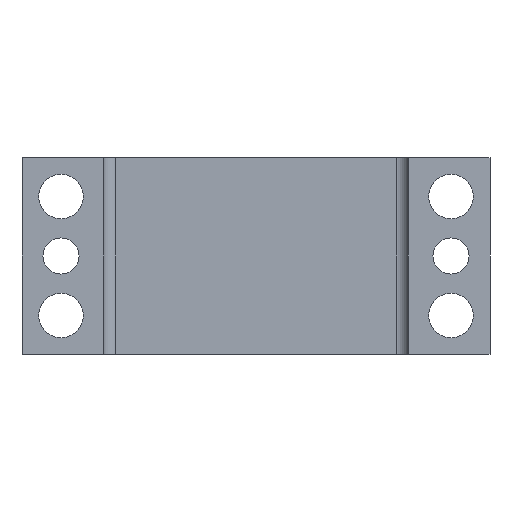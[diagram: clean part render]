
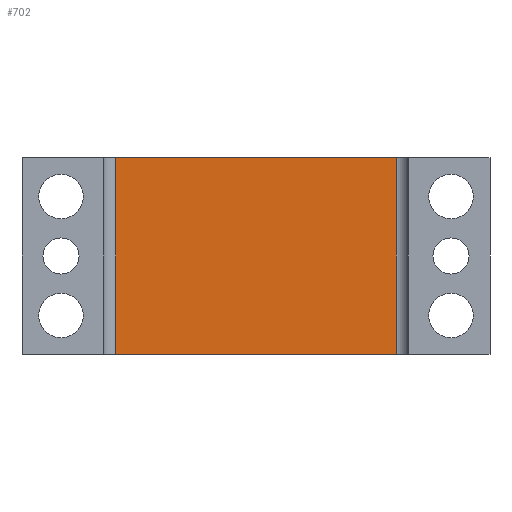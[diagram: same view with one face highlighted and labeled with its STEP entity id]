
A CAD part, front view. The second image highlights one B-rep face of the part: STEP entity #702.
In plain terms, the highlighted planar face has unit normal (0, -1, 0).
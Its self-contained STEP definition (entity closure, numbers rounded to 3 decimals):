
#74 = CARTESIAN_POINT ( 'NONE',  ( 37.8, 3.2, -26.5 ) ) ;
#105 = LINE ( 'NONE', #106, #107 ) ;
#106 = CARTESIAN_POINT ( 'NONE',  ( -37.8, 3.2, -26.5 ) ) ;
#107 = VECTOR ( 'NONE', #108, 1000. ) ;
#108 = DIRECTION ( 'NONE',  ( 1., 0., 0. ) ) ;
#142 = LINE ( 'NONE', #143, #144 ) ;
#143 = CARTESIAN_POINT ( 'NONE',  ( 37.8, 3.2, 26.5 ) ) ;
#144 = VECTOR ( 'NONE', #145, 1000. ) ;
#145 = DIRECTION ( 'NONE',  ( 0., 0., -1. ) ) ;
#344 = LINE ( 'NONE', #345, #346 ) ;
#345 = CARTESIAN_POINT ( 'NONE',  ( -37.8, 3.2, 26.5 ) ) ;
#346 = VECTOR ( 'NONE', #347, 1000. ) ;
#347 = DIRECTION ( 'NONE',  ( 0., 0., -1. ) ) ;
#348 = CARTESIAN_POINT ( 'NONE',  ( -37.8, 3.2, -26.5 ) ) ;
#467 = EDGE_LOOP ( 'NONE', ( #1304, #684, #736, #1921 ) ) ;
#477 = CARTESIAN_POINT ( 'NONE',  ( 37.8, 3.2, 26.5 ) ) ;
#511 = LINE ( 'NONE', #512, #513 ) ;
#512 = CARTESIAN_POINT ( 'NONE',  ( -37.8, 3.2, 26.5 ) ) ;
#513 = VECTOR ( 'NONE', #514, 1000. ) ;
#514 = DIRECTION ( 'NONE',  ( 1., 0., 0. ) ) ;
#588 = CARTESIAN_POINT ( 'NONE',  ( -37.8, 3.2, 26.5 ) ) ;
#684 = ORIENTED_EDGE ( 'NONE', *, *, #980, .F. ) ;
#702 = ADVANCED_FACE ( 'NONE', ( #1866 ), #1867, .F. ) ;
#736 = ORIENTED_EDGE ( 'NONE', *, *, #1523, .F. ) ;
#980 = EDGE_CURVE ( 'NONE', #1505, #2181, #142, .T. ) ;
#1304 = ORIENTED_EDGE ( 'NONE', *, *, #1987, .T. ) ;
#1505 = VERTEX_POINT ( 'NONE', #477 ) ;
#1523 = EDGE_CURVE ( 'NONE', #1543, #1505, #511, .T. ) ;
#1543 = VERTEX_POINT ( 'NONE', #588 ) ;
#1866 = FACE_OUTER_BOUND ( 'NONE', #467, .T. ) ;
#1867 = PLANE ( 'NONE',  #1868 ) ;
#1868 = AXIS2_PLACEMENT_3D ( 'NONE', #1869, #1870, #1871 ) ;
#1869 = CARTESIAN_POINT ( 'NONE',  ( -37.8, 3.2, 26.5 ) ) ;
#1870 = DIRECTION ( 'NONE',  ( 0., 1., 0. ) ) ;
#1871 = DIRECTION ( 'NONE',  ( 0., 0., 1. ) ) ;
#1921 = ORIENTED_EDGE ( 'NONE', *, *, #2022, .T. ) ;
#1987 = EDGE_CURVE ( 'NONE', #2024, #2181, #105, .T. ) ;
#2022 = EDGE_CURVE ( 'NONE', #1543, #2024, #344, .T. ) ;
#2024 = VERTEX_POINT ( 'NONE', #348 ) ;
#2181 = VERTEX_POINT ( 'NONE', #74 ) ;
